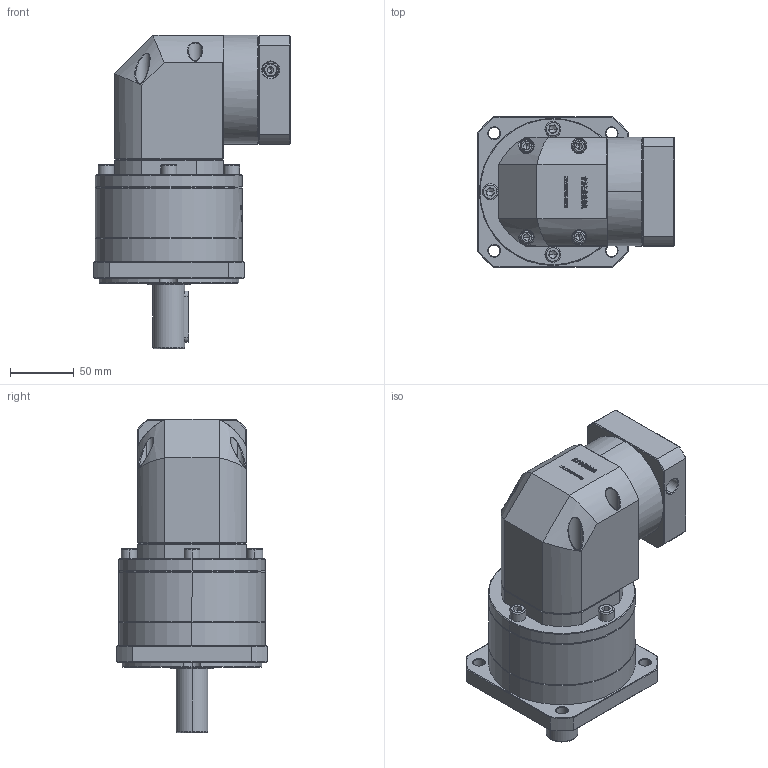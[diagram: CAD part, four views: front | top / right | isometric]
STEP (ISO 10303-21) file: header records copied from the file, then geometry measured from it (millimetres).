
FILE_DESCRIPTION (( 'STEP AP214' ), '1' );
FILE_NAME ('ZFR120A-D25-L2-12.7-73-69.5X69.5-M6.step', '2023-03-08T05:45:20', ( '' ), ( '' ), 'SwSTEP 2.0', 'SolidWorks 2016', '' );
FILE_SCHEMA (( 'AUTOMOTIVE_DESIGN' ));
Length unit declared in the file: millimetre
Products named in the file (1): ZFR120A-D25-L2-12.7-73-69.5X69.5-M6
Bounding box: 154.1 x 118 x 245 mm (x, y, z)
Volume: 1852421.1 mm3; surface area: 170488.8 mm2
Topology: 6 solids, 6 shells, 2998 faces, 7951 edges, 5099 vertices
Faces by surface type: plane 1578, bspline 625, cylinder 453, cone 328, torus 14
Entity records: 163500 total; most frequent: CARTESIAN_POINT 62142, ORIENTED_EDGE 15810, DIRECTION 11636, EDGE_CURVE 7905, VERTEX_POINT 5099, VECTOR 4928, LINE 4928, AXIS2_PLACEMENT_3D 3354
